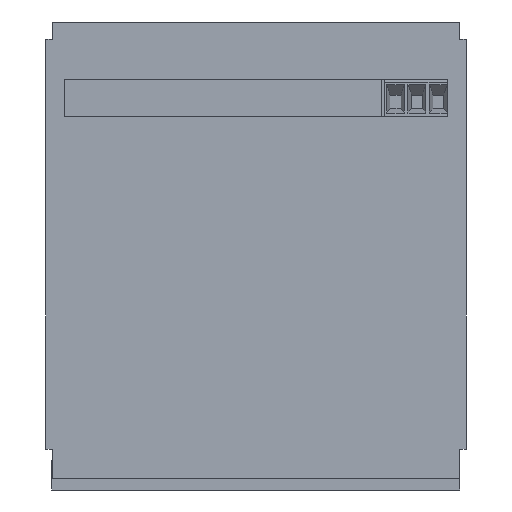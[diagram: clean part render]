
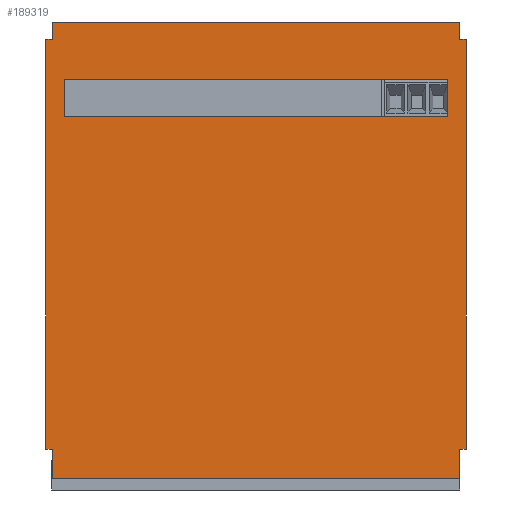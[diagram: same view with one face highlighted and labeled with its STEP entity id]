
A CAD part, front view. The second image highlights one B-rep face of the part: STEP entity #189319.
In plain terms, the highlighted planar face has unit normal (0, -1, 0).
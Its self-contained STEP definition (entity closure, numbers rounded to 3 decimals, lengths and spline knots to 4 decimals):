
#4366=FACE_BOUND($,#23695,.T.);
#13808=FACE_OUTER_BOUND($,#23694,.T.);
#23694=EDGE_LOOP($,(#171633,#171634,#171635,#171636,#171637,#171638,#171639,
#171640,#171641,#171642,#171643,#171644));
#23695=EDGE_LOOP($,(#171645,#171646,#171647,#171648));
#46931=LINE($,#303247,#71430);
#46940=LINE($,#303265,#71439);
#46950=LINE($,#303285,#71449);
#46952=LINE($,#303289,#71451);
#47056=LINE($,#303497,#71555);
#47083=LINE($,#303550,#71582);
#47085=LINE($,#303555,#71584);
#47089=LINE($,#303561,#71588);
#47090=LINE($,#303564,#71589);
#47104=LINE($,#303591,#71603);
#47126=LINE($,#303632,#71625);
#47130=LINE($,#303641,#71629);
#47134=LINE($,#303650,#71633);
#47143=LINE($,#303666,#71642);
#48165=LINE($,#305741,#72664);
#48194=LINE($,#305798,#72693);
#71430=VECTOR($,#245374,0.06);
#71439=VECTOR($,#245387,0.06);
#71449=VECTOR($,#245405,3.8865);
#71451=VECTOR($,#245409,0.165);
#71555=VECTOR($,#245585,0.165);
#71582=VECTOR($,#245628,3.635);
#71584=VECTOR($,#245632,3.635);
#71588=VECTOR($,#245638,0.352);
#71589=VECTOR($,#245643,0.352);
#71603=VECTOR($,#245667,3.865);
#71625=VECTOR($,#245705,0.2785);
#71629=VECTOR($,#245711,0.06);
#71633=VECTOR($,#245719,0.06);
#71642=VECTOR($,#245736,3.8865);
#72664=VECTOR($,#247600,0.2785);
#72693=VECTOR($,#247661,3.865);
#89906=VERTEX_POINT($,#303243);
#89908=VERTEX_POINT($,#303246);
#89914=VERTEX_POINT($,#303261);
#89915=VERTEX_POINT($,#303263);
#89922=VERTEX_POINT($,#303288);
#89989=VERTEX_POINT($,#303494);
#89990=VERTEX_POINT($,#303496);
#90006=VERTEX_POINT($,#303544);
#90008=VERTEX_POINT($,#303548);
#90009=VERTEX_POINT($,#303552);
#90010=VERTEX_POINT($,#303554);
#90030=VERTEX_POINT($,#303630);
#90031=VERTEX_POINT($,#303634);
#90034=VERTEX_POINT($,#303639);
#90037=VERTEX_POINT($,#303649);
#90672=VERTEX_POINT($,#305740);
#116393=EDGE_CURVE($,#89908,#89906,#46931,.T.);
#116402=EDGE_CURVE($,#89914,#89915,#46940,.T.);
#116412=EDGE_CURVE($,#89915,#89908,#46950,.T.);
#116414=EDGE_CURVE($,#89922,#89914,#46952,.T.);
#116518=EDGE_CURVE($,#89989,#89990,#47056,.T.);
#116545=EDGE_CURVE($,#90006,#90008,#47083,.T.);
#116547=EDGE_CURVE($,#90010,#90009,#47085,.T.);
#116551=EDGE_CURVE($,#90008,#90010,#47089,.T.);
#116552=EDGE_CURVE($,#90009,#90006,#47090,.T.);
#116566=EDGE_CURVE($,#89922,#89989,#47104,.T.);
#116588=EDGE_CURVE($,#89906,#90030,#47126,.T.);
#116592=EDGE_CURVE($,#90034,#90031,#47130,.T.);
#116596=EDGE_CURVE($,#89990,#90037,#47134,.T.);
#116605=EDGE_CURVE($,#90037,#90034,#47143,.T.);
#117643=EDGE_CURVE($,#90031,#90672,#48165,.T.);
#117672=EDGE_CURVE($,#90672,#90030,#48194,.T.);
#171633=ORIENTED_EDGE($,*,*,#117672,.F.);
#171634=ORIENTED_EDGE($,*,*,#117643,.F.);
#171635=ORIENTED_EDGE($,*,*,#116592,.F.);
#171636=ORIENTED_EDGE($,*,*,#116605,.F.);
#171637=ORIENTED_EDGE($,*,*,#116596,.F.);
#171638=ORIENTED_EDGE($,*,*,#116518,.F.);
#171639=ORIENTED_EDGE($,*,*,#116566,.F.);
#171640=ORIENTED_EDGE($,*,*,#116414,.T.);
#171641=ORIENTED_EDGE($,*,*,#116402,.T.);
#171642=ORIENTED_EDGE($,*,*,#116412,.T.);
#171643=ORIENTED_EDGE($,*,*,#116393,.T.);
#171644=ORIENTED_EDGE($,*,*,#116588,.T.);
#171645=ORIENTED_EDGE($,*,*,#116547,.T.);
#171646=ORIENTED_EDGE($,*,*,#116552,.T.);
#171647=ORIENTED_EDGE($,*,*,#116545,.T.);
#171648=ORIENTED_EDGE($,*,*,#116551,.T.);
#179877=PLANE($,#200870);
#189319=ADVANCED_FACE($,(#13808,#4366),#179877,.T.);
#200870=AXIS2_PLACEMENT_3D($,#305799,#247662,#247663);
#245374=DIRECTION($,(1.,0.,0.));
#245387=DIRECTION($,(-1.,0.,0.));
#245405=DIRECTION($,(0.,0.,-1.));
#245409=DIRECTION($,(0.,0.,-1.));
#245585=DIRECTION($,(0.,0.,-1.));
#245628=DIRECTION($,(-1.,0.,0.));
#245632=DIRECTION($,(1.,0.,0.));
#245638=DIRECTION($,(0.,0.,1.));
#245643=DIRECTION($,(0.,0.,-1.));
#245667=DIRECTION($,(1.,0.,0.));
#245705=DIRECTION($,(0.,0.,-1.));
#245711=DIRECTION($,(-1.,0.,0.));
#245719=DIRECTION($,(1.,0.,0.));
#245736=DIRECTION($,(0.,0.,-1.));
#247600=DIRECTION($,(0.,0.,-1.));
#247661=DIRECTION($,(-1.,0.,0.));
#247662=DIRECTION('center_axis',(0.,-1.,0.));
#247663=DIRECTION('ref_axis',(0.,0.,-1.));
#303243=CARTESIAN_POINT('',(3.482,26.3911,0.2785));
#303246=CARTESIAN_POINT('',(3.422,26.3911,0.2785));
#303247=CARTESIAN_POINT($,(3.422,26.3911,0.2785));
#303261=CARTESIAN_POINT('',(3.482,26.3911,4.165));
#303263=CARTESIAN_POINT('',(3.422,26.3911,4.165));
#303265=CARTESIAN_POINT($,(3.482,26.3911,4.165));
#303285=CARTESIAN_POINT($,(3.422,26.3911,4.165));
#303288=CARTESIAN_POINT('',(3.482,26.3911,4.33));
#303289=CARTESIAN_POINT($,(3.482,26.3911,4.33));
#303494=CARTESIAN_POINT('',(7.347,26.3911,4.33));
#303496=CARTESIAN_POINT('',(7.347,26.3911,4.165));
#303497=CARTESIAN_POINT($,(7.347,26.3911,4.33));
#303544=CARTESIAN_POINT('',(7.232,26.3911,3.436));
#303548=CARTESIAN_POINT('',(3.597,26.3911,3.436));
#303550=CARTESIAN_POINT($,(7.232,26.3911,3.436));
#303552=CARTESIAN_POINT('',(7.232,26.3911,3.788));
#303554=CARTESIAN_POINT('',(3.597,26.3911,3.788));
#303555=CARTESIAN_POINT($,(3.597,26.3911,3.788));
#303561=CARTESIAN_POINT($,(3.597,26.3911,3.436));
#303564=CARTESIAN_POINT($,(7.232,26.3911,3.788));
#303591=CARTESIAN_POINT($,(3.482,26.3911,4.33));
#303630=CARTESIAN_POINT('',(3.482,26.3911,0.));
#303632=CARTESIAN_POINT($,(3.482,26.3911,0.2785));
#303634=CARTESIAN_POINT('',(7.347,26.3911,0.2785));
#303639=CARTESIAN_POINT('',(7.407,26.3911,0.2785));
#303641=CARTESIAN_POINT($,(7.407,26.3911,0.2785));
#303649=CARTESIAN_POINT('',(7.407,26.3911,4.165));
#303650=CARTESIAN_POINT($,(7.347,26.3911,4.165));
#303666=CARTESIAN_POINT($,(7.407,26.3911,4.165));
#305740=CARTESIAN_POINT('',(7.347,26.3911,0.));
#305741=CARTESIAN_POINT($,(7.347,26.3911,0.2785));
#305798=CARTESIAN_POINT($,(7.347,26.3911,0.));
#305799=CARTESIAN_POINT('Origin',(3.422,26.3911,2.165));
